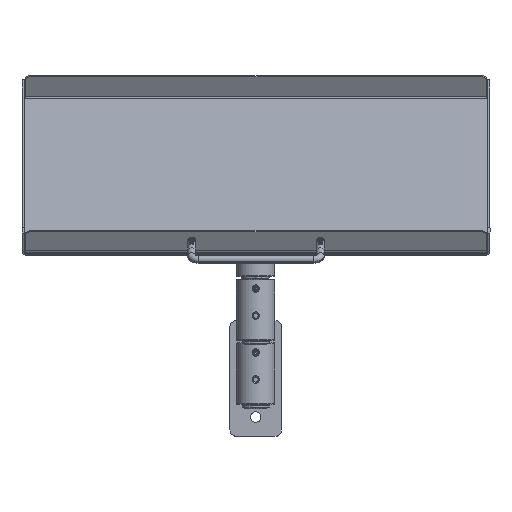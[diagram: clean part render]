
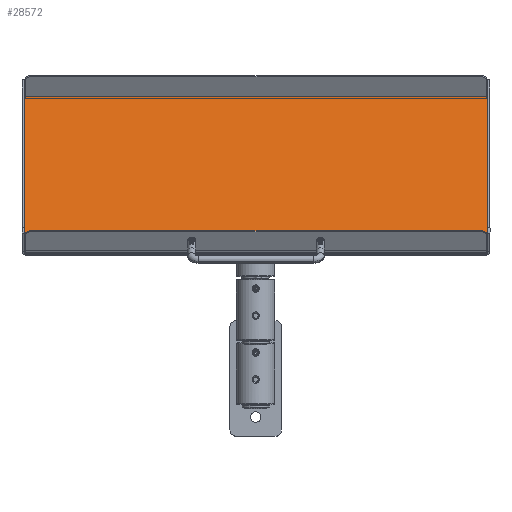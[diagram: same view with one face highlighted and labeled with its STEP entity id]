
A CAD part, top view. The second image highlights one B-rep face of the part: STEP entity #28572.
In plain terms, the highlighted planar face has unit normal (0, 0.866, 0.5) as drawn and (0, 1, 0) by its records, which use the part's own axes.
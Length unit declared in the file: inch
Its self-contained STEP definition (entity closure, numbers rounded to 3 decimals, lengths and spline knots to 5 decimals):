
#800 = VERTEX_POINT ( 'NONE', #5855 ) ;
#1177 = DIRECTION ( 'NONE',  ( 0., 0., -1. ) ) ;
#1885 = ORIENTED_EDGE ( 'NONE', *, *, #33593, .T. ) ;
#2249 = ORIENTED_EDGE ( 'NONE', *, *, #22274, .T. ) ;
#2486 = DIRECTION ( 'NONE',  ( -1., 0., 0. ) ) ;
#3227 = LINE ( 'NONE', #25453, #34845 ) ;
#3412 = VECTOR ( 'NONE', #2486, 39.37008 ) ;
#5855 = CARTESIAN_POINT ( 'NONE',  ( 9., 0.125, -6. ) ) ;
#6016 = VERTEX_POINT ( 'NONE', #29006 ) ;
#9654 = CARTESIAN_POINT ( 'NONE',  ( 9., 0.125, -6. ) ) ;
#10650 = EDGE_LOOP ( 'NONE', ( #2249, #1885, #12791, #20103 ) ) ;
#12403 = FACE_OUTER_BOUND ( 'NONE', #10650, .T. ) ;
#12791 = ORIENTED_EDGE ( 'NONE', *, *, #16150, .T. ) ;
#15918 = EDGE_CURVE ( 'NONE', #800, #22452, #27847, .T. ) ;
#16150 = EDGE_CURVE ( 'NONE', #17351, #800, #29103, .T. ) ;
#17351 = VERTEX_POINT ( 'NONE', #18077 ) ;
#18077 = CARTESIAN_POINT ( 'NONE',  ( 9., 0.125, 6. ) ) ;
#19216 = VECTOR ( 'NONE', #1177, 39.37008 ) ;
#19305 = CARTESIAN_POINT ( 'NONE',  ( -9., 0.125, -6. ) ) ;
#20103 = ORIENTED_EDGE ( 'NONE', *, *, #15918, .T. ) ;
#20831 = DIRECTION ( 'NONE',  ( 0., -1., 0. ) ) ;
#21197 = VECTOR ( 'NONE', #33223, 39.37008 ) ;
#21991 = LINE ( 'NONE', #27145, #21197 ) ;
#22274 = EDGE_CURVE ( 'NONE', #22452, #6016, #3227, .T. ) ;
#22452 = VERTEX_POINT ( 'NONE', #19305 ) ;
#23932 = AXIS2_PLACEMENT_3D ( 'NONE', #29305, #20831, #29658 ) ;
#25453 = CARTESIAN_POINT ( 'NONE',  ( -9., 0.125, -6. ) ) ;
#27145 = CARTESIAN_POINT ( 'NONE',  ( 9., 0.125, 6. ) ) ;
#27665 = CARTESIAN_POINT ( 'NONE',  ( 9., 0.125, -6. ) ) ;
#27847 = LINE ( 'NONE', #27665, #3412 ) ;
#28572 = ADVANCED_FACE ( 'NONE', ( #12403 ), #34854, .F. ) ;
#28574 = DIRECTION ( 'NONE',  ( 0., 0., 1. ) ) ;
#29006 = CARTESIAN_POINT ( 'NONE',  ( -9., 0.125, 6. ) ) ;
#29103 = LINE ( 'NONE', #9654, #19216 ) ;
#29305 = CARTESIAN_POINT ( 'NONE',  ( 0., 0.125, 0. ) ) ;
#29658 = DIRECTION ( 'NONE',  ( 0., 0., -1. ) ) ;
#33223 = DIRECTION ( 'NONE',  ( 1., 0., 0. ) ) ;
#33593 = EDGE_CURVE ( 'NONE', #6016, #17351, #21991, .T. ) ;
#34845 = VECTOR ( 'NONE', #28574, 39.37008 ) ;
#34854 = PLANE ( 'NONE',  #23932 ) ;
